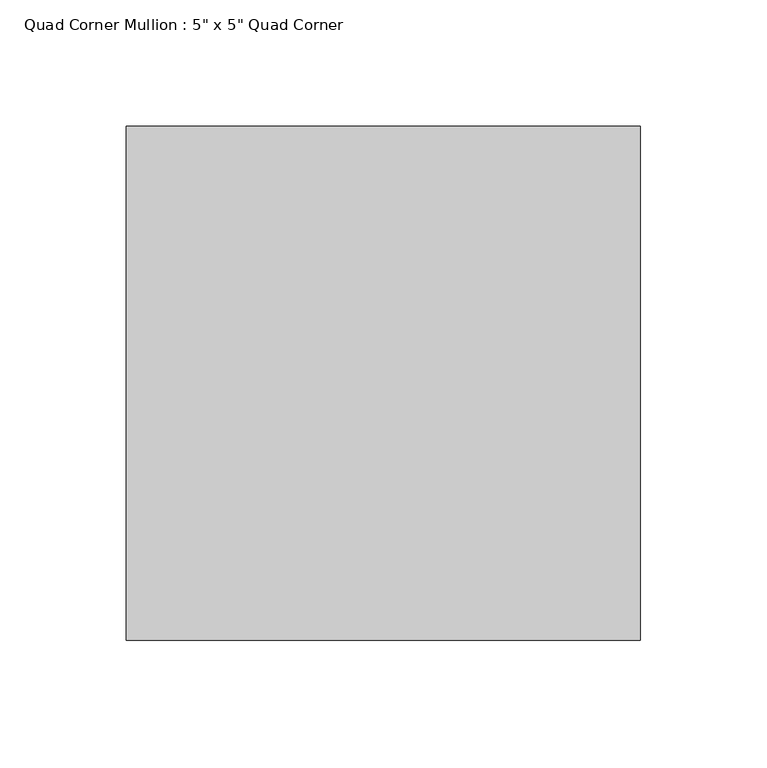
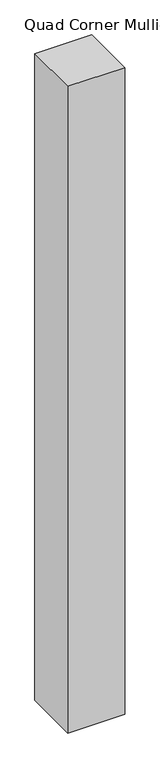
"""IFC4 building model written with IfcOpenShell, lengths in millimetres: member geometry."""

from ifc_helpers import new_model, si_unit, frame, origin, place, context, project, spatial, polyline, outline, extrude, source, transform, mapped, element, save


def member_cb5fe1db(model_context):
    return source(origin(), model_context, "Body", "SweptSolid", [
        extrude(outline(polyline([(69.85, 133.35), (69.85, -69.85), (-133.35, -69.85), (-133.35, 133.35), (69.85, 133.35)])), frame((0.0, 0.0, -2438.4), z_axis=(0.0, 0.0, 1.0), x_axis=(1.0, 0.0, 0.0)), (0.0, 0.0, 1.0), 2438.4),
    ])


if __name__ == "__main__":
    model = new_model("IFC4")
    model_context = context("Model", 3, world=origin())
    ifc_project = project(units=[si_unit("LENGTHUNIT", "METRE", prefix="MILLI")], contexts=[model_context])
    site = spatial("IfcSite", under=ifc_project)
    building = spatial("IfcBuilding", under=site)
    placement = place(None, origin())
    member_shape = member_cb5fe1db(model_context)
    element("IfcMember", 1, ObjectType="Quad Corner Mullion : 5\" x 5\" Quad Corner", at=placement, inside=building, context=model_context, shape_type="MappedRepresentation", body=[
        mapped(member_shape, transform((0.0, 0.0, 0.0), x_axis=(1.0, 0.0, 0.0), y_axis=(0.0, 1.0, 0.0), z_axis=(0.0, 0.0, 1.0))),
    ])
    save(model, "model.ifc")
